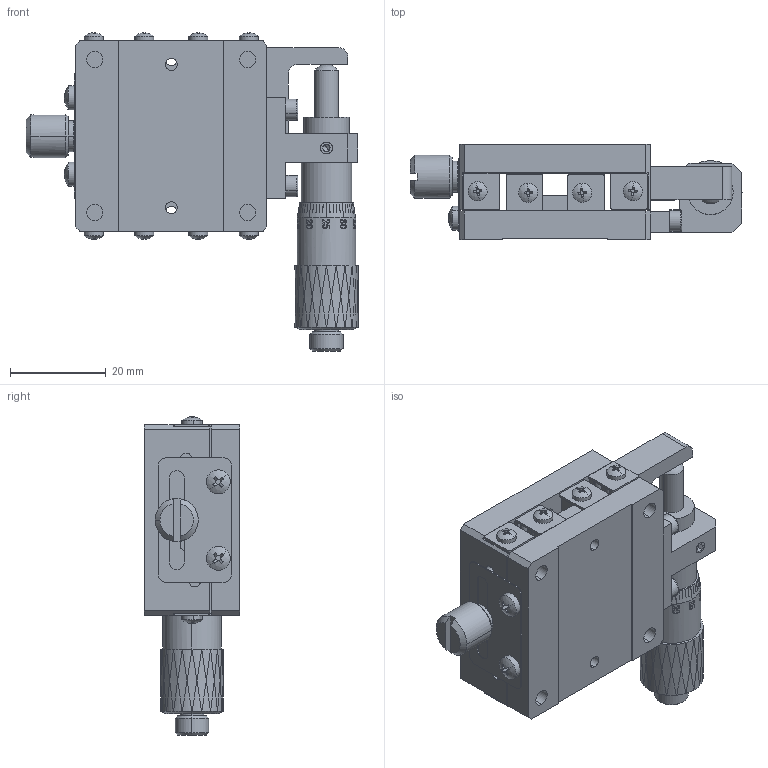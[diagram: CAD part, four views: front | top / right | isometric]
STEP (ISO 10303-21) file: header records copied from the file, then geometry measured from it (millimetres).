
FILE_DESCRIPTION (( 'STEP AP203' ), '1' );
FILE_NAME ('BGA40.STEP', '2023-08-26T08:22:43', ( 'China' ), ( 'Microsoft' ), 'SwSTEP 2.0', 'SolidWorks 2023', '' );
FILE_SCHEMA (( 'CONFIG_CONTROL_DESIGN' ));
Products named in the file (1): BGA40
Bounding box: 69.5 x 20 x 66.58 mm (x, y, z)
Volume: 34157.6 mm3; surface area: 25201.7 mm2
Topology: 40 solids, 40 shells, 1554 faces, 3879 edges, 2497 vertices
Faces by surface type: plane 492, cylinder 443, bspline 401, cone 188, sphere 22, torus 8
Entity records: 81602 total; most frequent: CARTESIAN_POINT 48346, ORIENTED_EDGE 7634, DIRECTION 5492, EDGE_CURVE 3817, VERTEX_POINT 2497, AXIS2_PLACEMENT_3D 2145, EDGE_LOOP 1780, FACE_OUTER_BOUND 1554
